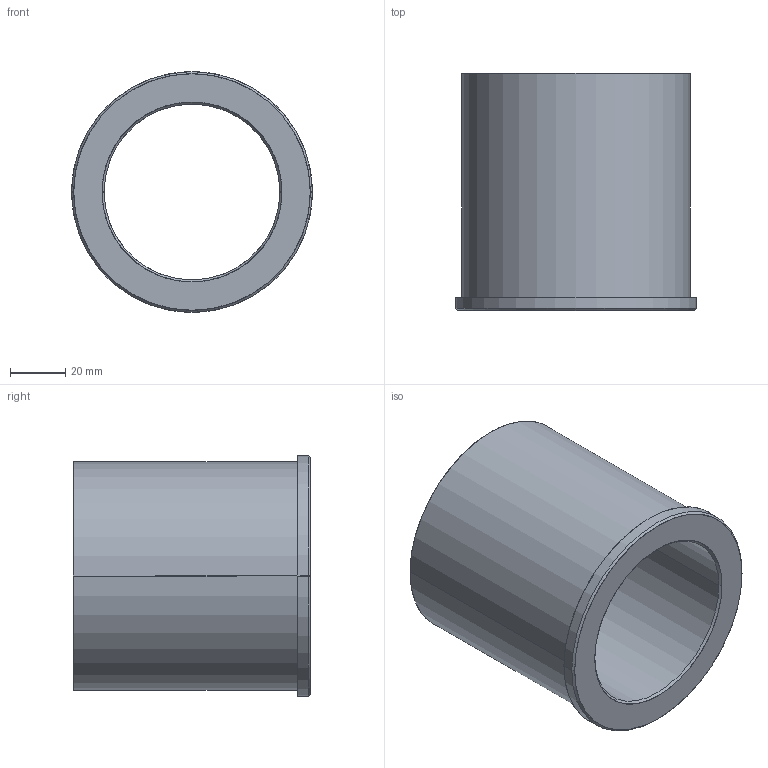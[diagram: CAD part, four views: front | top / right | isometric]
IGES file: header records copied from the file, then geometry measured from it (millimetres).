
Start section: SolidWorks IGES file using analytic representation for surfaces
Global section: file name: C:\Users\Ryan\Documents\PCS\Shoulder Bushings - Bronze Plated\LBB 20-33.igs; native system: SolidWorks 2009; preprocessor: SolidWorks 2009; author: Ryan; date: 140913.212028; units: inch
Bounding box: 87.05 x 85.72 x 87.05 mm (x, y, z)
Surface area: 44632 mm2 (no closed solid volume)
Topology: 0 solids, 0 shells, 15 faces, 432 edges, 432 vertices
Faces by surface type: revolution 10, bspline 5
